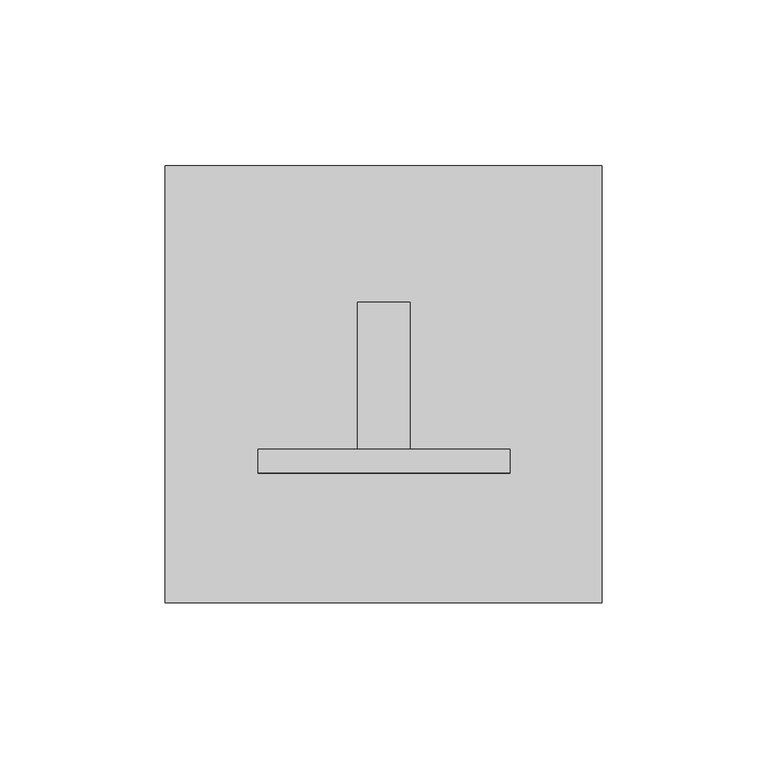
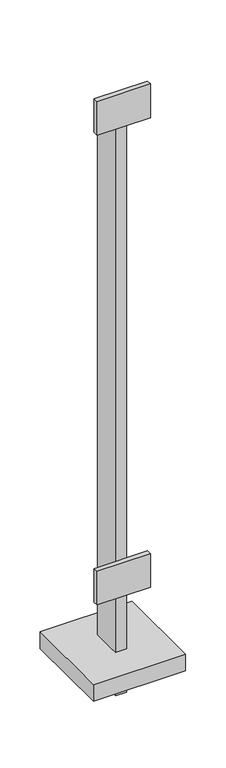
"""IFC4 building model written with IfcOpenShell, lengths in millimetres: proxy geometry, Baluster-End-Post-VIVA-STRUC-Top Mount : ANCHORED TO CONCRETE_TOP MOUNT STRUC_STRAIGHT."""

from ifc_helpers import new_model, si_unit, frame, origin, place, context, project, spatial, polyline, outline, extrude, source, transform, mapped, element, save


def building_element_proxy_88367a16(model_context):
    return source(origin(), model_context, "Body", "SweptSolid", [
        extrude(outline(polyline([(-58.9780808, -123.8478567), (-135.1795192, -123.8478567), (-135.1795192, -116.7358567), (-58.9780808, -116.7358567), (-58.9780808, -123.8478567)])), frame((0.0, 0.0, 824.3906928), z_axis=(0.0, 0.0, 1.0), x_axis=(1.0, 0.0, 0.0)), (0.0, 0.0, 1.0), 50.8),
        extrude(outline(polyline([(-58.9780808, -123.8478567), (-135.1795192, -123.8478567), (-135.1795192, -116.7358567), (-58.9780808, -116.7358567), (-58.9780808, -123.8478567)])), frame((0.0, 0.0, 113.1906928), z_axis=(0.0, 0.0, 1.0), x_axis=(1.0, 0.0, 0.0)), (0.0, 0.0, 1.0), 50.8),
        extrude(outline(polyline([(-163.19755, -30.878288), (-31.19755, -30.878288), (-31.19755, -162.878288), (-163.19755, -162.878288), (-163.19755, -30.878288)])), frame((0.0, 0.0, 0.5143555), z_axis=(0.0, 0.0, 1.0), x_axis=(1.0, 0.0, 0.0)), (0.0, 0.0, 1.0), 25.4),
        extrude(outline(polyline([(-89.1413, -72.2858567), (-89.1413, -116.7358567), (-105.0163, -116.7358567), (-105.0163, -72.2858567), (-89.1413, -72.2858567)])), frame((0.0, 0.0, -39.2093072), z_axis=(0.0, 0.0, 1.0), x_axis=(1.0, 0.0, 0.0)), (0.0, 0.0, 1.0), 870.9831072),
    ])


if __name__ == "__main__":
    model = new_model("IFC4")
    model_context = context("Model", 3, world=origin())
    ifc_project = project(units=[si_unit("LENGTHUNIT", "METRE", prefix="MILLI")], contexts=[model_context])
    site = spatial("IfcSite", under=ifc_project)
    building = spatial("IfcBuilding", under=site)
    placement = place(None, origin())
    building_element_proxy_shape = building_element_proxy_88367a16(model_context)
    element("IfcBuildingElementProxy", 1, Name="Baluster-End-Post-VIVA-STRUC-Top Mount : ANCHORED TO CONCRETE_TOP MOUNT STRUC_STRAIGHT", ObjectType="Baluster-End-Post-VIVA-STRUC-Top Mount : ANCHORED TO CONCRETE_TOP MOUNT STRUC_STRAIGHT", at=placement, inside=building, context=model_context, shape_type="MappedRepresentation", body=[
        mapped(building_element_proxy_shape, transform((0.0, 0.0, 0.0), x_axis=(1.0, 0.0, 0.0), y_axis=(0.0, 1.0, 0.0), z_axis=(0.0, 0.0, 1.0))),
    ])
    save(model, "model.ifc")
